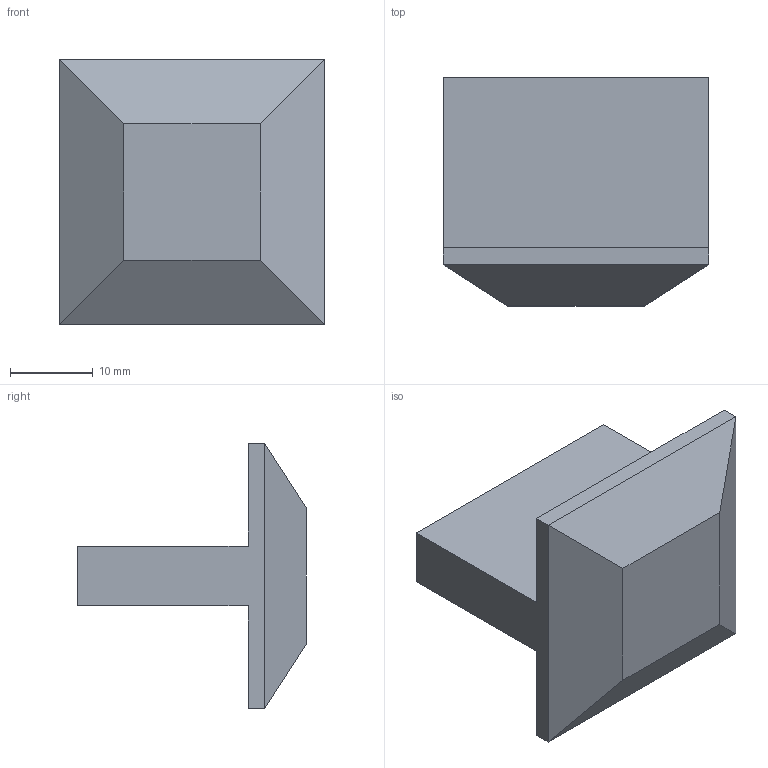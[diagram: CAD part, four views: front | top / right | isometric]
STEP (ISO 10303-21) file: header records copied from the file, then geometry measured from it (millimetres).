
FILE_DESCRIPTION( ( '' ), '1' );
FILE_NAME( 'D:/1.AUTOCAD EXPORT/4.YEAR-2016/11. ProDecor_Handles/PD_2016/9208066.stp', '2016-01-19T08:30:00', ( '' ), ( '' ), ' ', ' ', ' ' );
FILE_SCHEMA( ( 'CONFIG_CONTROL_DESIGN' ) );
Length unit declared in the file: millimetre
Products named in the file (1): 1
Bounding box: 32 x 27.5 x 32 mm (x, y, z)
Volume: 9560.3 mm3; surface area: 4305.4 mm2
Topology: 1 solids, 1 shells, 20 faces, 44 edges, 28 vertices
Faces by surface type: plane 16, cylinder 4
Entity records: 588 total; most frequent: DIRECTION 94, CARTESIAN_POINT 93, ORIENTED_EDGE 88, EDGE_CURVE 44, LINE 36, VECTOR 36, AXIS2_PLACEMENT_3D 29, VERTEX_POINT 28
